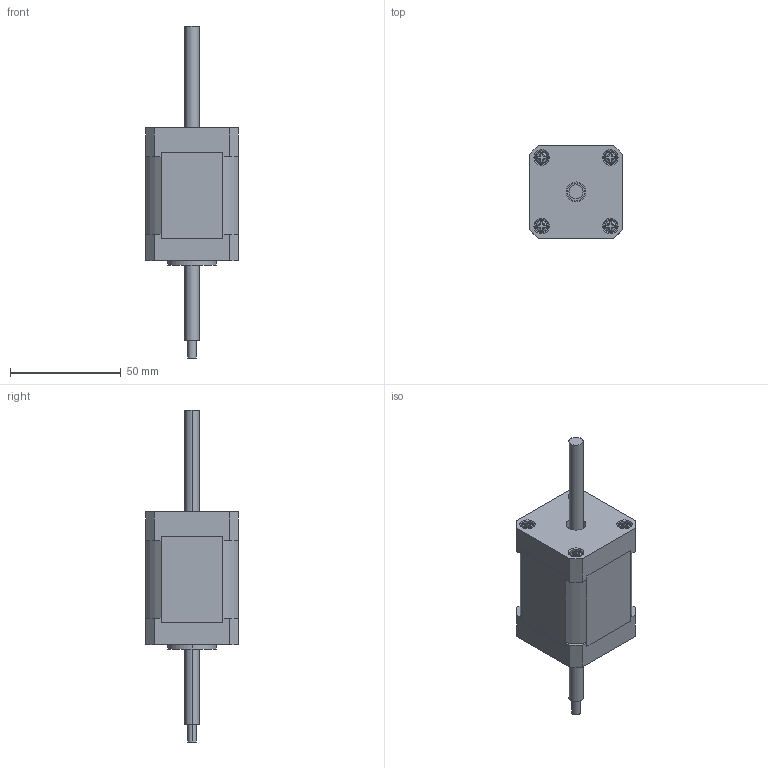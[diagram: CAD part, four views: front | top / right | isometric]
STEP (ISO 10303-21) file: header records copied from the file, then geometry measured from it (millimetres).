
FILE_DESCRIPTION (( 'STEP AP203' ), '1' );
FILE_NAME ('42SN1860-425-TR6.35£ª3.175-150-01.STEP', '2022-07-05T06:45:49', ( 'USER-' ), ( 'MS' ), 'SwSTEP 2.0', 'SolidWorks 2018', '' );
FILE_SCHEMA (( 'CONFIG_CONTROL_DESIGN' ));
Length unit declared in the file: millimetre
Products named in the file (1): 42SN1860-425-TR6.35＊3.175-150-01
Bounding box: 42 x 42 x 150 mm (x, y, z)
Volume: 106636.8 mm3; surface area: 23913 mm2
Topology: 4 solids, 4 shells, 212 faces, 530 edges, 348 vertices
Faces by surface type: plane 122, cylinder 64, torus 16, cone 10
Entity records: 6569 total; most frequent: CARTESIAN_POINT 1347, DIRECTION 1088, ORIENTED_EDGE 1060, EDGE_CURVE 530, AXIS2_PLACEMENT_3D 401, VERTEX_POINT 348, VECTOR 286, LINE 286
